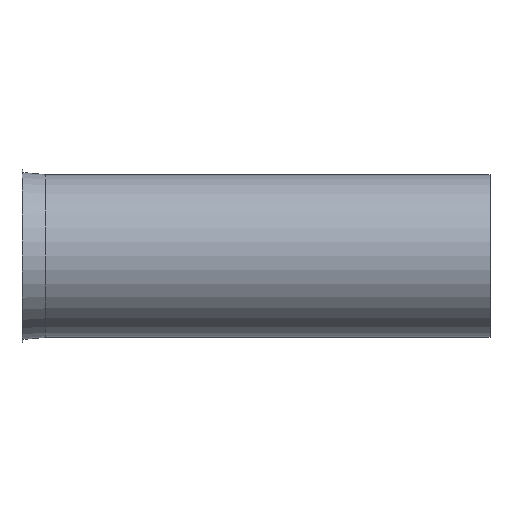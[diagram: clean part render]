
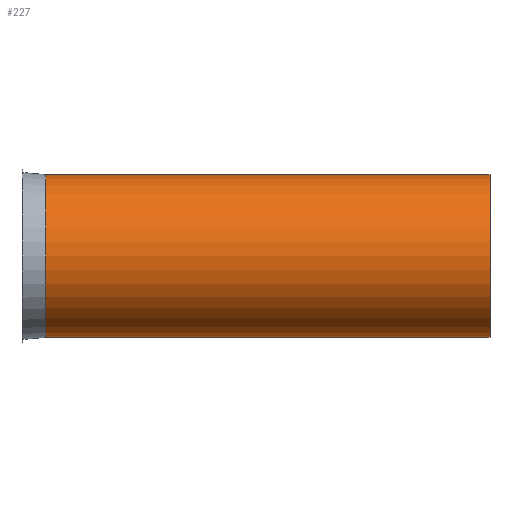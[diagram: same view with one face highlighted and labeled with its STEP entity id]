
A CAD part, front view. The second image highlights one B-rep face of the part: STEP entity #227.
In plain terms, the highlighted cylindrical face has radius 172.5 mm (diameter 345 mm), a full revolution.
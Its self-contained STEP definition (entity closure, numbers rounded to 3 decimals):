
#132=CARTESIAN_POINT('',(22.919,46.834,0.0));
#133=VERTEX_POINT('',#132);
#134=CARTESIAN_POINT('',(22.919,219.334,0.0));
#135=DIRECTION('',(-1.0,0.0,0.0));
#136=DIRECTION('',(0.0,-1.0,0.0));
#137=AXIS2_PLACEMENT_3D('',#134,#135,#136);
#138=CIRCLE('',#137,172.5);
#139=EDGE_CURVE('',#133,#133,#138,.T.);
#201=CARTESIAN_POINT('',(963.919,46.834,0.0));
#202=VERTEX_POINT('',#201);
#203=CARTESIAN_POINT('',(963.919,219.334,0.0));
#204=DIRECTION('',(-1.0,0.0,0.0));
#205=DIRECTION('',(0.0,-1.0,0.0));
#206=AXIS2_PLACEMENT_3D('',#203,#204,#205);
#207=CIRCLE('',#206,172.5);
#208=EDGE_CURVE('',#202,#202,#207,.T.);
#216=CARTESIAN_POINT('',(493.419,219.334,0.0));
#217=DIRECTION('',(-1.0,0.,0.0));
#218=DIRECTION('',(0.0,-1.0,0.0));
#219=AXIS2_PLACEMENT_3D('',#216,#217,#218);
#220=CYLINDRICAL_SURFACE('',#219,172.5);
#221=ORIENTED_EDGE('',*,*,#139,.F.);
#222=EDGE_LOOP('',(#221));
#223=FACE_OUTER_BOUND('',#222,.T.);
#224=ORIENTED_EDGE('',*,*,#208,.T.);
#225=EDGE_LOOP('',(#224));
#226=FACE_BOUND('',#225,.T.);
#227=ADVANCED_FACE('',(#223,#226),#220,.T.);
